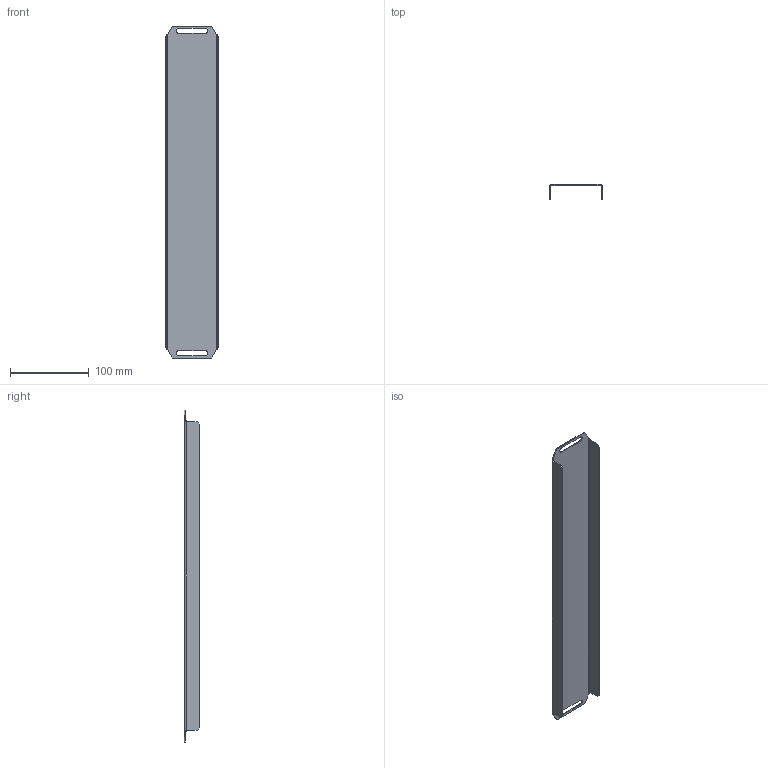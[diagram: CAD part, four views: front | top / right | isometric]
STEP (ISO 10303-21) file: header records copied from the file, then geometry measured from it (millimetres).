
FILE_DESCRIPTION (( 'STEP AP203' ), '1' );
FILE_NAME ('PKV 60 S Ïàíåëü ñòàöèîíàðíàÿ.STEP', '2021-05-17T06:29:34', ( '' ), ( '' ), 'SwSTEP 2.0', 'SolidWorks 2018', '' );
FILE_SCHEMA (( 'CONFIG_CONTROL_DESIGN' ));
Length unit declared in the file: millimetre
Products named in the file (1): PKV 60 S Ïàíåëü ñòàöèîíàðíàÿ
Bounding box: 67 x 19 x 420.5 mm (x, y, z)
Volume: 48863 mm3; surface area: 82860.6 mm2
Topology: 1 solids, 1 shells, 38 faces, 92 edges, 56 vertices
Faces by surface type: plane 26, cylinder 8, bspline 4
Entity records: 1281 total; most frequent: CARTESIAN_POINT 351, ORIENTED_EDGE 184, DIRECTION 154, EDGE_CURVE 92, VECTOR 68, LINE 68, VERTEX_POINT 56, AXIS2_PLACEMENT_3D 43
